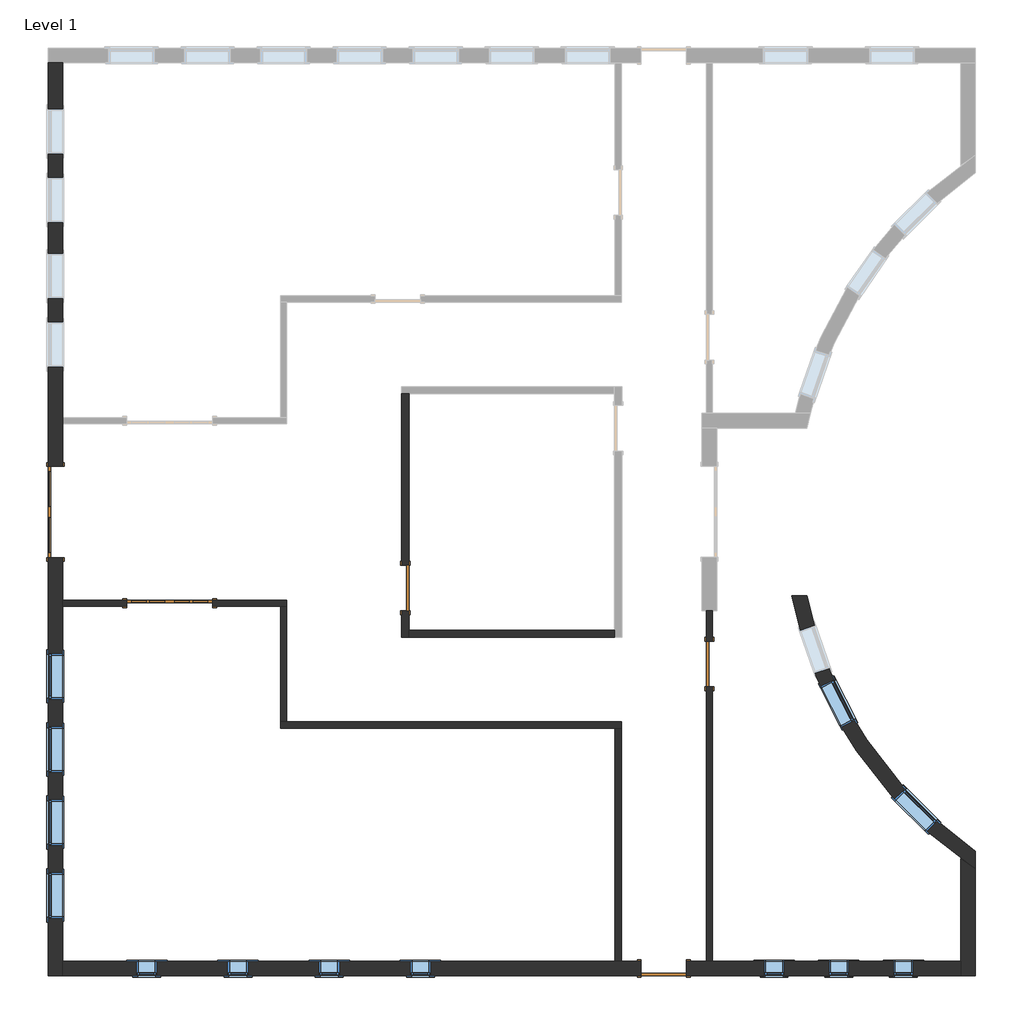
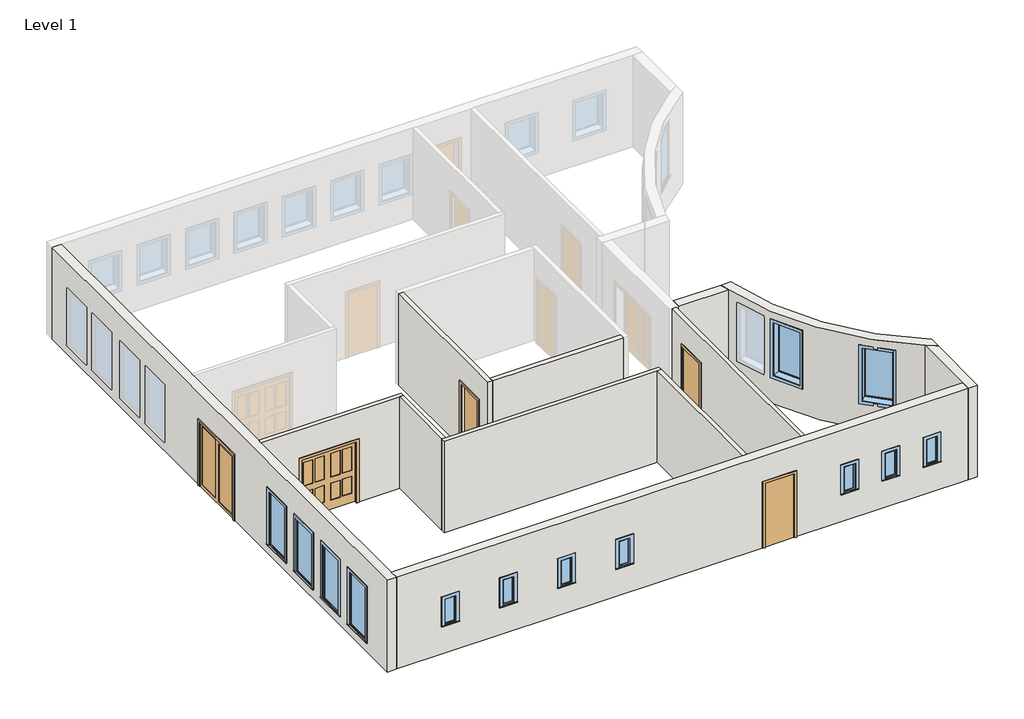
# One storey, part 1 of 2: 13 windows, 12 walls, 5 doors.
"""IFC4 building model written with IfcOpenShell, lengths in millimetres."""

from ifc_helpers import new_model, si_unit, point, frame, frame_2d, origin, origin_with_axes, place, context, project, spatial, polyline, circle_curve, trimmed, segment, composite_curve, outline, extrude, faceted_brep, transform, mapped, element, save
from ifc_brep_helpers import plane_surface, cylinder_surface, revolved_surface, advanced_brep
from components import door_e9d87526, door_c173eac2, door_7b231ec9, door_eb9f8b14, door_3dff5d0e, fixed_6768491c, fixed_431f5485

model = new_model("IFC4")

# Units and contexts
model_context = context("Model", 3, world=origin())
ifc_project = project(units=[si_unit("LENGTHUNIT", "METRE", prefix="MILLI")], contexts=[model_context])

# Site, building, storey
site = spatial("IfcSite", under=ifc_project)
building = spatial("IfcBuilding", under=site)
storey = spatial("IfcBuildingStorey", under=building, Name="Level 1", Elevation=0.0)

# Doors
placement = place(None, origin())
door_shape = door_e9d87526(model_context)
element("IfcDoor", 1, ObjectType="Double-Glass 1 : 72\" x 84\"", at=placement, inside=storey, context=model_context, shape_type="MappedRepresentation", body=[
    mapped(door_shape, transform((-10745.5063726, -435.5710073, 0.0), x_axis=(0.0, 1.0, 0.0), y_axis=(-1.0, 0.0, 0.0), z_axis=(0.0, 0.0, 1.0))),
])
door_2_shape = door_c173eac2(model_context)
element("IfcDoor", 2, ObjectType="Double-Panel 2 : 68\" x 80\"", at=placement, inside=storey, context=model_context, shape_type="MappedRepresentation", body=[
    mapped(door_2_shape, transform((-8461.8876226, -2264.3710073, 0.0), x_axis=(1.0, 0.0, 0.0), y_axis=(0.0, 1.0, 0.0), z_axis=(0.0, 0.0, 1.0))),
])
door_3_shape = door_7b231ec9(model_context)
element("IfcDoor", 3, ObjectType="Sgl Flush : 36\" x 84\"", at=placement, inside=storey, context=model_context, shape_type="MappedRepresentation", body=[
    mapped(door_3_shape, transform((1444.1123774, -9579.5710073, 0.0), x_axis=(-1.0, 0.0, 0.0), y_axis=(0.0, -1.0, 0.0), z_axis=(0.0, 0.0, 1.0))),
])
door_4_shape = door_eb9f8b14(model_context)
element("IfcDoor", 4, ObjectType="Sgl Flush : 36\" x 84\"", at=placement, inside=storey, context=model_context, shape_type="MappedRepresentation", body=[
    mapped(door_4_shape, transform((2358.5123774, -3478.8085073, 0.0), x_axis=(0.0, -1.0, 0.0), y_axis=(1.0, 0.0, 0.0), z_axis=(0.0, 0.0, 1.0))),
])
door_5_shape = door_3dff5d0e(model_context)
element("IfcDoor", 5, ObjectType="Sgl Flush : 36\" x 84\"", at=placement, inside=storey, context=model_context, shape_type="MappedRepresentation", body=[
    mapped(door_5_shape, transform((-3737.4876226, -1959.5710073, 0.0), x_axis=(0.0, -1.0, 0.0), y_axis=(1.0, 0.0, 0.0), z_axis=(0.0, 0.0, 1.0))),
])

# Walls
element("IfcWall", 6, ObjectType="Generic - 12\" Masonry", at=placement, inside=storey, context=model_context, shape_type="Brep", body=[
    faceted_brep([(-10600.2501226, 478.8289927, 2133.6), (-10600.2501226, 478.8289927, 0.0), (-10600.2501226, 1331.3164927, 0.0), (-10600.2501226, 1455.1414927, 0.0), (-10600.2501226, 8560.7914927, 0.0), (-10600.2501226, 8560.7914927, 3048.0), (-10600.2501226, 1455.1414927, 3048.0), (-10600.2501226, 1331.3164927, 3048.0), (-10600.2501226, -2202.4585073, 3048.0), (-10600.2501226, -2326.2835073, 3048.0), (-10600.2501226, -9431.9335073, 3048.0), (-10600.2501226, -9727.2085073, 3048.0), (-10600.2501226, -9727.2085073, 0.0), (-10600.2501226, -9431.9335073, 0.0), (-10600.2501226, -2326.2835073, 0.0), (-10600.2501226, -2202.4585073, 0.0), (-10600.2501226, -1349.9710073, 0.0), (-10600.2501226, -1349.9710073, 2133.6), (-10600.2501226, 6727.2289927, 2133.6), (-10600.2501226, 7641.6289927, 2133.6), (-10600.2501226, 7641.6289927, 304.8), (-10600.2501226, 6727.2289927, 304.8), (-10600.2501226, 3831.6289927, 2133.6), (-10600.2501226, 4746.0289927, 2133.6), (-10600.2501226, 4746.0289927, 304.8), (-10600.2501226, 3831.6289927, 304.8), (-10600.2501226, 5355.6289927, 2133.6), (-10600.2501226, 6270.0289927, 2133.6), (-10600.2501226, 6270.0289927, 304.8), (-10600.2501226, 5355.6289927, 304.8), (-10600.2501226, 2460.0289927, 2133.6), (-10600.2501226, 3374.4289927, 2133.6), (-10600.2501226, 3374.4289927, 304.8), (-10600.2501226, 2460.0289927, 304.8), (-10600.2501226, -7659.3310073, 2133.6), (-10600.2501226, -7659.3310073, 304.8), (-10600.2501226, -8573.7310073, 304.8), (-10600.2501226, -8573.7310073, 2133.6), (-10600.2501226, -4733.2510073, 2133.6), (-10600.2501226, -4733.2510073, 304.8), (-10600.2501226, -5647.6510073, 304.8), (-10600.2501226, -5647.6510073, 2133.6), (-10600.2501226, -6196.2910073, 2133.6), (-10600.2501226, -6196.2910073, 304.8), (-10600.2501226, -7110.6910073, 304.8), (-10600.2501226, -7110.6910073, 2133.6), (-10600.2501226, -3270.2110073, 2133.6), (-10600.2501226, -3270.2110073, 304.8), (-10600.2501226, -4184.6110073, 304.8), (-10600.2501226, -4184.6110073, 2133.6), (-10895.5251226, 8560.7914927, 0.0), (-10895.5251226, 478.8289927, 0.0), (-10895.5251226, 478.8289927, 2133.6), (-10895.5251226, -1349.9710073, 2133.6), (-10895.5251226, -1349.9710073, 0.0), (-10895.5251226, -9727.2085073, 0.0), (-10895.5251226, -9727.2085073, 3048.0), (-10895.5251226, 8560.7914927, 3048.0), (-10895.5251226, 6727.2289927, 2133.6), (-10895.5251226, 6727.2289927, 304.8), (-10895.5251226, 7641.6289927, 304.8), (-10895.5251226, 7641.6289927, 2133.6), (-10895.5251226, 3831.6289927, 2133.6), (-10895.5251226, 3831.6289927, 304.8), (-10895.5251226, 4746.0289927, 304.8), (-10895.5251226, 4746.0289927, 2133.6), (-10895.5251226, 5355.6289927, 2133.6), (-10895.5251226, 5355.6289927, 304.8), (-10895.5251226, 6270.0289927, 304.8), (-10895.5251226, 6270.0289927, 2133.6), (-10895.5251226, 2460.0289927, 2133.6), (-10895.5251226, 2460.0289927, 304.8), (-10895.5251226, 3374.4289927, 304.8), (-10895.5251226, 3374.4289927, 2133.6), (-10895.5251226, -7659.3310073, 2133.6), (-10895.5251226, -8573.7310073, 2133.6), (-10895.5251226, -8573.7310073, 304.8), (-10895.5251226, -7659.3310073, 304.8), (-10895.5251226, -4733.2510073, 2133.6), (-10895.5251226, -5647.6510073, 2133.6), (-10895.5251226, -5647.6510073, 304.8), (-10895.5251226, -4733.2510073, 304.8), (-10895.5251226, -6196.2910073, 2133.6), (-10895.5251226, -7110.6910073, 2133.6), (-10895.5251226, -7110.6910073, 304.8), (-10895.5251226, -6196.2910073, 304.8), (-10895.5251226, -3270.2110073, 2133.6), (-10895.5251226, -4184.6110073, 2133.6), (-10895.5251226, -4184.6110073, 304.8), (-10895.5251226, -3270.2110073, 304.8)], [[[0, 1, 2, 3, 4, 5, 6, 7, 8, 9, 10, 11, 12, 13, 14, 15, 16, 17], [18, 19, 20, 21], [22, 23, 24, 25], [26, 27, 28, 29], [30, 31, 32, 33], [34, 35, 36, 37], [38, 39, 40, 41], [42, 43, 44, 45], [46, 47, 48, 49]], [[50, 51, 52, 53, 54, 55, 56, 57], [58, 59, 60, 61], [62, 63, 64, 65], [66, 67, 68, 69], [70, 71, 72, 73], [74, 75, 76, 77], [78, 79, 80, 81], [82, 83, 84, 85], [86, 87, 88, 89]], [[4, 3, 2, 1, 51, 50]], [[16, 15, 14, 13, 12, 55, 54]], [[11, 10, 9, 8, 7, 6, 5, 57, 56]], [[12, 11, 56, 55]], [[5, 4, 50, 57]], [[52, 51, 1, 0]], [[53, 52, 0, 17]], [[54, 53, 17, 16]], [[59, 58, 18, 21]], [[60, 59, 21, 20]], [[61, 60, 20, 19]], [[58, 61, 19, 18]], [[63, 62, 22, 25]], [[64, 63, 25, 24]], [[65, 64, 24, 23]], [[62, 65, 23, 22]], [[67, 66, 26, 29]], [[68, 67, 29, 28]], [[69, 68, 28, 27]], [[66, 69, 27, 26]], [[71, 70, 30, 33]], [[72, 71, 33, 32]], [[73, 72, 32, 31]], [[70, 73, 31, 30]], [[35, 34, 74, 77]], [[36, 35, 77, 76]], [[37, 36, 76, 75]], [[34, 37, 75, 74]], [[39, 38, 78, 81]], [[40, 39, 81, 80]], [[41, 40, 80, 79]], [[38, 41, 79, 78]], [[43, 42, 82, 85]], [[44, 43, 85, 84]], [[45, 44, 84, 83]], [[42, 45, 83, 82]], [[47, 46, 86, 89]], [[48, 47, 89, 88]], [[49, 48, 88, 87]], [[46, 49, 87, 86]]]),
])
element("IfcWall", 7, ObjectType="Generic - 12\" Masonry", at=placement, inside=storey, context=model_context, shape_type="Brep", body=[
    faceted_brep([(986.9123774, -9431.9335073, 2133.6), (986.9123774, -9431.9335073, 0.0), (591.6248774, -9431.9335073, 0.0), (467.7998774, -9431.9335073, 0.0), (-10600.2501226, -9431.9335073, 0.0), (-10600.2501226, -9431.9335073, 3048.0), (467.7998774, -9431.9335073, 3048.0), (591.6248774, -9431.9335073, 3048.0), (2296.5998774, -9431.9335073, 3048.0), (2420.4248774, -9431.9335073, 3048.0), (7392.4748774, -9431.9335073, 3048.0), (7392.4748774, -9431.9335073, 0.0), (2420.4248774, -9431.9335073, 0.0), (2296.5998774, -9431.9335073, 0.0), (1901.3123774, -9431.9335073, 0.0), (1901.3123774, -9431.9335073, 2133.6), (6041.5123774, -9431.9335073, 1828.8), (6041.5123774, -9431.9335073, 914.4), (6447.9123774, -9431.9335073, 914.4), (6447.9123774, -9431.9335073, 1828.8), (4746.1123774, -9431.9335073, 1828.8), (4746.1123774, -9431.9335073, 914.4), (5152.5123774, -9431.9335073, 914.4), (5152.5123774, -9431.9335073, 1828.8), (3450.7123774, -9431.9335073, 1828.8), (3450.7123774, -9431.9335073, 914.4), (3857.1123774, -9431.9335073, 914.4), (3857.1123774, -9431.9335073, 1828.8), (-3635.8876226, -9431.9335073, 1828.8), (-3635.8876226, -9431.9335073, 914.4), (-3229.4876226, -9431.9335073, 914.4), (-3229.4876226, -9431.9335073, 1828.8), (-5464.6876226, -9431.9335073, 1828.8), (-5464.6876226, -9431.9335073, 914.4), (-5058.2876226, -9431.9335073, 914.4), (-5058.2876226, -9431.9335073, 1828.8), (-7293.4876226, -9431.9335073, 1828.8), (-7293.4876226, -9431.9335073, 914.4), (-6887.0876226, -9431.9335073, 914.4), (-6887.0876226, -9431.9335073, 1828.8), (-9122.2876226, -9431.9335073, 1828.8), (-9122.2876226, -9431.9335073, 914.4), (-8715.8876226, -9431.9335073, 914.4), (-8715.8876226, -9431.9335073, 1828.8), (-10600.2501226, -9727.2085073, 0.0), (986.9123774, -9727.2085073, 0.0), (986.9123774, -9727.2085073, 2133.6), (1901.3123774, -9727.2085073, 2133.6), (1901.3123774, -9727.2085073, 0.0), (7392.4748774, -9727.2085073, 0.0), (7392.4748774, -9727.2085073, 3048.0), (-10600.2501226, -9727.2085073, 3048.0), (6041.5123774, -9727.2085073, 1828.8), (6447.9123774, -9727.2085073, 1828.8), (6447.9123774, -9727.2085073, 914.4), (6041.5123774, -9727.2085073, 914.4), (4746.1123774, -9727.2085073, 1828.8), (5152.5123774, -9727.2085073, 1828.8), (5152.5123774, -9727.2085073, 914.4), (4746.1123774, -9727.2085073, 914.4), (3450.7123774, -9727.2085073, 1828.8), (3857.1123774, -9727.2085073, 1828.8), (3857.1123774, -9727.2085073, 914.4), (3450.7123774, -9727.2085073, 914.4), (-3635.8876226, -9727.2085073, 1828.8), (-3229.4876226, -9727.2085073, 1828.8), (-3229.4876226, -9727.2085073, 914.4), (-3635.8876226, -9727.2085073, 914.4), (-5464.6876226, -9727.2085073, 1828.8), (-5058.2876226, -9727.2085073, 1828.8), (-5058.2876226, -9727.2085073, 914.4), (-5464.6876226, -9727.2085073, 914.4), (-7293.4876226, -9727.2085073, 1828.8), (-6887.0876226, -9727.2085073, 1828.8), (-6887.0876226, -9727.2085073, 914.4), (-7293.4876226, -9727.2085073, 914.4), (-9122.2876226, -9727.2085073, 1828.8), (-8715.8876226, -9727.2085073, 1828.8), (-8715.8876226, -9727.2085073, 914.4), (-9122.2876226, -9727.2085073, 914.4)], [[[0, 1, 2, 3, 4, 5, 6, 7, 8, 9, 10, 11, 12, 13, 14, 15], [16, 17, 18, 19], [20, 21, 22, 23], [24, 25, 26, 27], [28, 29, 30, 31], [32, 33, 34, 35], [36, 37, 38, 39], [40, 41, 42, 43]], [[44, 45, 46, 47, 48, 49, 50, 51], [52, 53, 54, 55], [56, 57, 58, 59], [60, 61, 62, 63], [64, 65, 66, 67], [68, 69, 70, 71], [72, 73, 74, 75], [76, 77, 78, 79]], [[4, 3, 2, 1, 45, 44]], [[14, 13, 12, 11, 49, 48]], [[10, 9, 8, 7, 6, 5, 51, 50]], [[5, 4, 44, 51]], [[11, 10, 50, 49]], [[46, 45, 1, 0]], [[47, 46, 0, 15]], [[48, 47, 15, 14]], [[17, 16, 52, 55]], [[18, 17, 55, 54]], [[19, 18, 54, 53]], [[16, 19, 53, 52]], [[21, 20, 56, 59]], [[22, 21, 59, 58]], [[23, 22, 58, 57]], [[20, 23, 57, 56]], [[25, 24, 60, 63]], [[26, 25, 63, 62]], [[27, 26, 62, 61]], [[24, 27, 61, 60]], [[29, 28, 64, 67]], [[30, 29, 67, 66]], [[31, 30, 66, 65]], [[28, 31, 65, 64]], [[33, 32, 68, 71]], [[34, 33, 71, 70]], [[35, 34, 70, 69]], [[32, 35, 69, 68]], [[37, 36, 72, 75]], [[38, 37, 75, 74]], [[39, 38, 74, 73]], [[36, 39, 73, 72]], [[41, 40, 76, 79]], [[42, 41, 79, 78]], [[43, 42, 78, 77]], [[40, 43, 77, 76]]]),
])
element("IfcWall", 8, ObjectType="Generic - 12\" Masonry", at=placement, inside=storey, context=model_context, shape_type="AdvancedBrep", body=[
    advanced_brep(
    [(7392.4748774, -7378.5850292, 0.0), (7392.4748774, -9431.9335073, 0.0), (7392.4748774, -9727.2085073, 0.0), (7392.4748774, -9727.2085073, 3048.0), (7392.4748774, -9431.9335073, 3048.0), (7392.4748774, -7378.5850292, 3048.0), (7687.7498774, -7582.8871074, 0.0), (7687.7498774, -7582.8871074, 3048.0), (7687.7498774, -9727.2085073, 3048.0), (7687.7498774, -9727.2085073, 0.0)],
    [
        (0, 1),
        (1, 2),
        (2, 3),
        (3, 4),
        (4, 5),
        (5, 0),
        (6, 7),
        (7, 8),
        (8, 9),
        (9, 6),
        (0, 6, circle_curve(frame((12414.6932373, -435.5710073, 0.0), z_axis=(0.0, 0.0, 1.0), x_axis=(1.0, 0.0, 0.0)), 8569.0210037)),
        (9, 2),
        (3, 8),
        (7, 5, circle_curve(frame((12414.6932373, -435.5710073, 3048.0), z_axis=(0.0, 0.0, -1.0), x_axis=(1.0, 0.0, 0.0)), 8569.0210037)),
    ],
    [
        plane_surface(frame((7392.4748774, 8846.8596294, 0.0), z_axis=(-1.0, 0.0, 0.0), x_axis=(0.0, -1.0, 0.0))),
        plane_surface(frame((7687.7498774, 8846.8596294, 0.0), z_axis=(1.0, 0.0, 0.0), x_axis=(0.0, 1.0, 0.0))),
        plane_surface(frame((7392.4748774, -7302.7510368, 0.0), z_axis=(0.0, 0.0, -1.0), x_axis=(1.0, 0.0, 0.0))),
        plane_surface(frame((7392.4748774, -9579.5710073, 3048.0), z_axis=(0.0, 0.0, 1.0), x_axis=(1.0, 0.0, 0.0))),
        plane_surface(frame((7540.1123774, -9727.2085073, 0.0), z_axis=(0.0, -1.0, 0.0), x_axis=(1.0, 0.0, 0.0))),
        revolved_surface(polyline([(20983.714241, -435.5710073, 3048.0), (20983.714241, -435.5710073, 0.0)]), (12414.6932373, -435.5710073, 0.0), (0.0, 0.0, 1.0)),
    ],
    [
        (0, [[1, 2, 3, 4, 5, 6]]),
        (1, [[7, 8, 9, 10]]),
        (2, [[-2, -1, 11, -10, 12]]),
        (3, [[-5, -4, 13, -8, 14]]),
        (4, [[-3, -12, -9, -13]]),
        (5, [[-6, -14, -7, -11]]),
    ],
),
])
element("IfcWall", 9, ObjectType="Generic - 12\" Masonry", at=placement, inside=storey, context=model_context, shape_type="AdvancedBrep", body=[
    advanced_brep(
    [(7687.7498774, -7226.0702089, 3048.0), (4313.5472948, -2116.7335073, 3048.0), (4012.2047005, -2116.7335073, 3048.0), (4076.7199892, -2412.0129973, 3048.0), (7392.4783745, -7378.5874332, 3048.0), (7687.7498774, -7582.8871074, 3048.0), (7687.7498774, -7226.0702089, 0.0), (7687.7498774, -7582.8871074, 0.0), (7392.4783745, -7378.5874332, 0.0), (4076.7199892, -2412.0129973, 0.0), (4012.2047005, -2116.7335073, 0.0), (4313.5472948, -2116.7335073, 0.0), (6922.7409562, -6623.7317256, 2743.2), (6273.4213207, -5979.9061506, 2743.2), (6273.4213207, -5979.9061506, 914.4), (6922.7409562, -6623.7317256, 914.4), (5269.4263488, -4606.9058088, 2743.2), (4852.7592551, -3792.9550161, 2743.2), (4852.7592551, -3792.9550161, 914.4), (5269.4263488, -4606.9058088, 914.4), (4758.4259955, -3571.8817152, 2743.2), (4459.0939332, -2707.8633842, 2743.2), (4459.0939332, -2707.8633842, 914.4), (4758.4259955, -3571.8817152, 914.4), (6714.5317839, -6833.7176427, 2743.2), (6714.5317839, -6833.7176427, 914.4), (6065.2121485, -6189.8920676, 914.4), (6065.2121485, -6189.8920676, 2743.2), (5006.1997431, -4741.6533461, 2743.2), (5006.1997431, -4741.6533461, 914.4), (4589.5326494, -3927.7025534, 914.4), (4589.5326494, -3927.7025534, 2743.2), (4479.0078605, -3668.6838358, 2743.2), (4479.0078605, -3668.6838358, 914.4), (4179.6757981, -2804.6655047, 914.4), (4179.6757981, -2804.6655047, 2743.2)],
    [
        (0, 1, circle_curve(frame((12414.6932373, -435.5710073, 3048.0), z_axis=(0.0, 0.0, -1.0), x_axis=(1.0, 0.0, 0.0)), 8273.7460037)),
        (1, 2),
        (2, 3, circle_curve(frame((12414.6932373, -435.5710073, 3048.0), z_axis=(0.0, 0.0, 1.0), x_axis=(1.0, 0.0, 0.0)), 8569.0210037)),
        (3, 4, circle_curve(frame((12414.6932373, -435.5710073, 3048.0), z_axis=(0.0, 0.0, 1.0), x_axis=(1.0, 0.0, 0.0)), 8569.0209957)),
        (4, 5, circle_curve(frame((12414.6932373, -435.5710073, 3048.0), z_axis=(0.0, 0.0, 1.0), x_axis=(1.0, 0.0, 0.0)), 8569.0209019)),
        (5, 0),
        (6, 7),
        (7, 8, circle_curve(frame((12414.6932373, -435.5710073, 0.0), z_axis=(0.0, 0.0, -1.0), x_axis=(1.0, 0.0, 0.0)), 8569.0210037)),
        (8, 9, circle_curve(frame((12414.6932373, -435.5710073, 0.0), z_axis=(0.0, 0.0, -1.0), x_axis=(1.0, 0.0, 0.0)), 8569.0209019)),
        (9, 10, circle_curve(frame((12414.6932373, -435.5710073, 0.0), z_axis=(0.0, 0.0, -1.0), x_axis=(1.0, 0.0, 0.0)), 8569.0209957)),
        (10, 11),
        (11, 6, circle_curve(frame((12414.6932373, -435.5710073, 0.0), z_axis=(0.0, 0.0, 1.0), x_axis=(1.0, 0.0, 0.0)), 8273.7460037)),
        (0, 6),
        (11, 1),
        (12, 13, circle_curve(frame((12414.6932373, -435.5710073, 2743.2), z_axis=(0.0, 0.0, -1.0), x_axis=(1.0, 0.0, 0.0)), 8273.7460037)),
        (13, 14),
        (14, 15, circle_curve(frame((12414.6932373, -435.5710073, 914.4), z_axis=(0.0, 0.0, 1.0), x_axis=(1.0, 0.0, 0.0)), 8273.7460037)),
        (15, 12),
        (16, 17, circle_curve(frame((12414.6932373, -435.5710073, 2743.2), z_axis=(0.0, 0.0, -1.0), x_axis=(1.0, 0.0, 0.0)), 8273.7460037)),
        (17, 18),
        (18, 19, circle_curve(frame((12414.6932373, -435.5710073, 914.4), z_axis=(0.0, 0.0, 1.0), x_axis=(1.0, 0.0, 0.0)), 8273.7460037)),
        (19, 16),
        (20, 21, circle_curve(frame((12414.6932373, -435.5710073, 2743.2), z_axis=(0.0, 0.0, -1.0), x_axis=(1.0, 0.0, 0.0)), 8273.7460037)),
        (21, 22),
        (22, 23, circle_curve(frame((12414.6932373, -435.5710073, 914.4), z_axis=(0.0, 0.0, 1.0), x_axis=(1.0, 0.0, 0.0)), 8273.7460037)),
        (23, 20),
        (2, 10),
        (7, 5),
        (24, 25),
        (25, 26, circle_curve(frame((12414.6932373, -435.5710073, 914.4), z_axis=(0.0, 0.0, -1.0), x_axis=(1.0, 0.0, 0.0)), 8569.0210037)),
        (26, 27),
        (27, 24, circle_curve(frame((12414.6932373, -435.5710073, 2743.2), z_axis=(0.0, 0.0, 1.0), x_axis=(1.0, 0.0, 0.0)), 8569.0210037)),
        (28, 29),
        (29, 30, circle_curve(frame((12414.6932373, -435.5710073, 914.4), z_axis=(0.0, 0.0, -1.0), x_axis=(1.0, 0.0, 0.0)), 8569.0210037)),
        (30, 31),
        (31, 28, circle_curve(frame((12414.6932373, -435.5710073, 2743.2), z_axis=(0.0, 0.0, 1.0), x_axis=(1.0, 0.0, 0.0)), 8569.0210037)),
        (32, 33),
        (33, 34, circle_curve(frame((12414.6932373, -435.5710073, 914.4), z_axis=(0.0, 0.0, -1.0), x_axis=(1.0, 0.0, 0.0)), 8569.0210037)),
        (34, 35),
        (35, 32, circle_curve(frame((12414.6932373, -435.5710073, 2743.2), z_axis=(0.0, 0.0, 1.0), x_axis=(1.0, 0.0, 0.0)), 8569.0210037)),
        (24, 12),
        (15, 25),
        (14, 26),
        (13, 27),
        (28, 16),
        (19, 29),
        (18, 30),
        (17, 31),
        (32, 20),
        (23, 33),
        (22, 34),
        (21, 35),
    ],
    [
        plane_surface(frame((20688.4392409, -435.5710073, 3048.0), z_axis=(0.0, 0.0, 1.0), x_axis=(0.0, -1.0, 0.0))),
        plane_surface(frame((20688.4392409, -435.5710073, 0.0), z_axis=(0.0, 0.0, -1.0), x_axis=(0.0, 1.0, 0.0))),
        revolved_surface(polyline([(20688.439241, -435.5710073, 0.0), (20688.439241, -435.5710073, 3048.0)]), (12414.6932373, -435.5710073, 0.0), (0.0, 0.0, -1.0)),
        cylinder_surface(frame((12414.6932373, -435.5710073, 0.0), z_axis=(0.0, 0.0, 1.0), x_axis=(1.0, 0.0, 0.0)), 8569.0210037),
        plane_surface(frame((7687.7498774, 8846.8596294, 0.0), z_axis=(1.0, 0.0, 0.0), x_axis=(0.0, 1.0, 0.0))),
        plane_surface(frame((3577.7123774, -2116.7335073, 0.0), z_axis=(0.0, 1.0, 0.0), x_axis=(-1.0, 0.0, 0.0))),
        plane_surface(frame((6714.5317839, -6833.7176427, 2743.2), z_axis=(-0.7101045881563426, 0.7040962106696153, 0.0), x_axis=(0.7040962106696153, 0.7101045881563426, 0.0))),
        plane_surface(frame((6714.5317839, -6833.7176427, 914.4), z_axis=(0.0, 0.0, 1.0000000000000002), x_axis=(0.7040962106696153, 0.7101045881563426, 0.0))),
        plane_surface(frame((6065.2121485, -6189.8920676, 914.4), z_axis=(0.7101045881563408, -0.7040962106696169, 0.0), x_axis=(0.7040962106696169, 0.7101045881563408, 0.0))),
        plane_surface(frame((6065.2121485, -6189.8920676, 2743.2), z_axis=(0.0, 0.0, -1.0), x_axis=(0.7040962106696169, 0.7101045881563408, 0.0))),
        plane_surface(frame((5006.1997431, -4741.6533461, 2743.2), z_axis=(-0.45567267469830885, 0.8901474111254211, 0.0), x_axis=(0.8901474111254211, 0.45567267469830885, 0.0))),
        plane_surface(frame((5006.1997431, -4741.6533461, 914.4), z_axis=(0.0, 0.0, 1.0000000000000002), x_axis=(0.8901474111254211, 0.45567267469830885, 0.0))),
        plane_surface(frame((4589.5326494, -3927.7025534, 914.4), z_axis=(0.45567267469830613, -0.8901474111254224, 0.0), x_axis=(0.8901474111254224, 0.45567267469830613, 0.0))),
        plane_surface(frame((4589.5326494, -3927.7025534, 2743.2), z_axis=(0.0, 0.0, -1.0), x_axis=(0.8901474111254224, 0.45567267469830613, 0.0))),
        plane_surface(frame((4479.0078605, -3668.6838358, 2743.2), z_axis=(-0.3273535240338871, 0.9449019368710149, 0.0), x_axis=(0.9449019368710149, 0.3273535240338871, 0.0))),
        plane_surface(frame((4479.0078605, -3668.6838358, 914.4), z_axis=(0.0, 0.0, 1.0), x_axis=(0.9449019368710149, 0.3273535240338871, 0.0))),
        plane_surface(frame((4179.6757981, -2804.6655047, 914.4), z_axis=(0.327353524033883, -0.9449019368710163, 0.0), x_axis=(0.9449019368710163, 0.327353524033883, 0.0))),
        plane_surface(frame((4179.6757981, -2804.6655047, 2743.2), z_axis=(0.0, 0.0, -1.0000000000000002), x_axis=(0.9449019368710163, 0.327353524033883, 0.0))),
    ],
    [
        (0, [[1, 2, 3, 4, 5, 6]]),
        (1, [[7, 8, 9, 10, 11, 12]]),
        (2, [[-1, 13, -12, 14], [15, 16, 17, 18], [19, 20, 21, 22], [23, 24, 25, 26]]),
        (3, [[-5, -4, -3, 27, -10, -9, -8, 28], [29, 30, 31, 32], [33, 34, 35, 36], [37, 38, 39, 40]]),
        (4, [[-6, -28, -7, -13]]),
        (5, [[-2, -14, -11, -27]]),
        (6, [[-29, 41, -18, 42]]),
        (7, [[-30, -42, -17, 43]]),
        (8, [[-31, -43, -16, 44]]),
        (9, [[-32, -44, -15, -41]]),
        (10, [[-33, 45, -22, 46]]),
        (11, [[-34, -46, -21, 47]]),
        (12, [[-35, -47, -20, 48]]),
        (13, [[-36, -48, -19, -45]]),
        (14, [[-37, 49, -26, 50]]),
        (15, [[-38, -50, -25, 51]]),
        (16, [[-39, -51, -24, 52]]),
        (17, [[-40, -52, -23, -49]]),
    ],
),
])
element("IfcWall", 10, ObjectType="Generic - 12\" Masonry", at=placement, inside=storey, context=model_context, shape_type="SweptSolid", body=[
    extrude(outline(composite_curve([segment(polyline([(4076.7189167, -2412.0085073), (2506.1498774, -2412.0085073), (2506.1498774, -2116.7335073), (4012.2047005, -2116.7335073)]), True, "CONTINUOUS"), segment(trimmed(circle_curve(frame_2d((12414.6932373, -435.5710073)), 8569.0210037), [point((4012.2047005, -2116.7335073))], [point((4076.7189167, -2412.0085073))], True, "CARTESIAN"), True, "CONTINUOUS")], self_intersect=False)), origin_with_axes(), (0.0, 0.0, 1.0), 3048.0),
])
element("IfcWall", 11, ObjectType="Generic - 6\" Masonry", at=placement, inside=storey, context=model_context, shape_type="Brep", body=[
    faceted_brep([(-3666.0501226, -2945.4085073, 0.0), (-3666.0501226, -2802.5335073, 0.0), (-3666.0501226, -2416.7710073, 0.0), (-3666.0501226, -2416.7710073, 2133.6), (-3666.0501226, -1502.3710073, 2133.6), (-3666.0501226, -1502.3710073, 0.0), (-3666.0501226, 1931.3914927, 0.0), (-3666.0501226, 1931.3914927, 3048.0), (-3666.0501226, -2802.5335073, 3048.0), (-3666.0501226, -2945.4085073, 3048.0), (-3808.9251226, -2416.7710073, 2133.6), (-3808.9251226, -2416.7710073, 0.0), (-3808.9251226, -2945.4085073, 0.0), (-3808.9251226, -2945.4085073, 3048.0), (-3808.9251226, 1931.3914927, 3048.0), (-3808.9251226, 1931.3914927, 0.0), (-3808.9251226, -1502.3710073, 0.0), (-3808.9251226, -1502.3710073, 2133.6)], [[[0, 1, 2, 3, 4, 5, 6, 7, 8, 9]], [[10, 11, 12, 13, 14, 15, 16, 17]], [[12, 11, 2, 1, 0]], [[16, 15, 6, 5]], [[9, 8, 7, 14, 13]], [[0, 9, 13, 12]], [[7, 6, 15, 14]], [[3, 2, 11, 10]], [[4, 3, 10, 17]], [[5, 4, 17, 16]]]),
])
element("IfcWall", 12, ObjectType="Generic - 6\" Masonry", at=placement, inside=storey, context=model_context, shape_type="SweptSolid", body=[
    extrude(outline(polyline([(-3666.0501226, -2802.5335073), (458.2748774, -2802.5335073), (458.2748774, -2945.4085073), (-3666.0501226, -2945.4085073), (-3666.0501226, -2802.5335073)])), origin_with_axes(), (0.0, 0.0, 1.0), 3048.0),
])
element("IfcWall", 13, ObjectType="Interior - 4 7/8\" Partition (1-hr)", at=placement, inside=storey, context=model_context, shape_type="Brep", body=[
    faceted_brep([(-10600.2501226, -2326.2835073, 3048.0), (-6237.8001226, -2326.2835073, 3048.0), (-6113.9751226, -2326.2835073, 3048.0), (-6113.9751226, -2202.4585073, 3048.0), (-10600.2501226, -2202.4585073, 3048.0), (-10600.2501226, -2326.2835073, 0.0), (-9325.4876226, -2326.2835073, 0.0), (-9325.4876226, -2326.2835073, 2032.0), (-7598.2876226, -2326.2835073, 2032.0), (-7598.2876226, -2326.2835073, 0.0), (-6237.8001226, -2326.2835073, 0.0), (-6113.9751226, -2326.2835073, 0.0), (-6113.9751226, -2202.4585073, 0.0), (-7598.2876226, -2202.4585073, 0.0), (-7598.2876226, -2202.4585073, 2032.0), (-9325.4876226, -2202.4585073, 2032.0), (-9325.4876226, -2202.4585073, 0.0), (-10600.2501226, -2202.4585073, 0.0)], [[[0, 1, 2, 3, 4]], [[2, 1, 0, 5, 6, 7, 8, 9, 10, 11]], [[4, 3, 12, 13, 14, 15, 16, 17]], [[12, 11, 10, 9, 13]], [[5, 17, 16, 6]], [[2, 11, 12, 3]], [[5, 0, 4, 17]], [[8, 14, 13, 9]], [[14, 8, 7, 15]], [[15, 7, 6, 16]]]),
])
element("IfcWall", 14, ObjectType="Interior - 4 7/8\" Partition (1-hr)", at=placement, inside=storey, context=model_context, shape_type="Brep", body=[
    faceted_brep([(-6237.8001226, -4764.6835073, 0.0), (467.7998774, -4764.6835073, 0.0), (591.6248774, -4764.6835073, 0.0), (591.6248774, -4764.6835073, 3048.0), (467.7998774, -4764.6835073, 3048.0), (-6237.8001226, -4764.6835073, 3048.0), (-6237.8001226, -4640.8585073, 0.0), (-6237.8001226, -4640.8585073, 3048.0), (-6113.9751226, -4640.8585073, 3048.0), (591.6248774, -4640.8585073, 3048.0), (591.6248774, -4640.8585073, 0.0), (-6113.9751226, -4640.8585073, 0.0)], [[[0, 1, 2, 3, 4, 5]], [[6, 7, 8, 9, 10, 11]], [[2, 1, 0, 6, 11, 10]], [[5, 4, 3, 9, 8, 7]], [[3, 2, 10, 9]], [[0, 5, 7, 6]]]),
])
element("IfcWall", 15, ObjectType="Interior - 4 7/8\" Partition (1-hr)", at=placement, inside=storey, context=model_context, shape_type="SweptSolid", body=[
    extrude(outline(polyline([(467.7998774, -9431.9335073), (467.7998774, -4764.6835073), (591.6248774, -4764.6835073), (591.6248774, -9431.9335073), (467.7998774, -9431.9335073)])), origin_with_axes(), (0.0, 0.0, 1.0), 3048.0),
])
element("IfcWall", 16, ObjectType="Interior - 4 7/8\" Partition (1-hr)", at=placement, inside=storey, context=model_context, shape_type="SweptSolid", body=[
    extrude(outline(polyline([(-6113.9751226, -2326.2835073), (-6113.9751226, -4640.8585073), (-6237.8001226, -4640.8585073), (-6237.8001226, -2326.2835073), (-6113.9751226, -2326.2835073)])), origin_with_axes(), (0.0, 0.0, 1.0), 3048.0),
])
element("IfcWall", 17, ObjectType="Interior - 4 7/8\" Partition (1-hr)", at=placement, inside=storey, context=model_context, shape_type="SweptSolid", body=[
    extrude(outline(polyline([(-3936.0085073, 2133.6), (-3936.0085073, 0.0), (-9431.9335073, 0.0), (-9431.9335073, 3048.0), (-2412.0085073, 3048.0), (-2412.0085073, 0.0), (-3021.6085073, 0.0), (-3021.6085073, 2133.6), (-3936.0085073, 2133.6)])), frame((2296.5998774, 0.0, 0.0), z_axis=(1.0, 0.0, 0.0), x_axis=(0.0, 1.0, 0.0)), (0.0, 0.0, 1.0), 123.825),
])

# Windows
fixed_shape = fixed_6768491c(model_context)
element("IfcWindow", 18, ObjectType="Fixed : 36\"w x 72\"h", at=placement, inside=storey, context=model_context, shape_type="MappedRepresentation", body=[
    mapped(fixed_shape, transform((-10747.8876226, -3689.3110073, 0.0), x_axis=(0.0, 1.0, 0.0), y_axis=(-1.0, 0.0, 0.0), z_axis=(0.0, 0.0, 1.0))),
])
element("IfcWindow", 19, ObjectType="Fixed : 36\"w x 72\"h", at=placement, inside=storey, context=model_context, shape_type="MappedRepresentation", body=[
    mapped(fixed_shape, transform((-10747.8876226, -6615.3910073, 0.0), x_axis=(0.0, 1.0, 0.0), y_axis=(-1.0, 0.0, 0.0), z_axis=(0.0, 0.0, 1.0))),
])
element("IfcWindow", 20, ObjectType="Fixed : 36\"w x 72\"h", at=placement, inside=storey, context=model_context, shape_type="MappedRepresentation", body=[
    mapped(fixed_shape, transform((-10747.8876226, -5152.3510073, 0.0), x_axis=(0.0, 1.0, 0.0), y_axis=(-1.0, 0.0, 0.0), z_axis=(0.0, 0.0, 1.0))),
])
element("IfcWindow", 21, ObjectType="Fixed : 36\"w x 72\"h", at=placement, inside=storey, context=model_context, shape_type="MappedRepresentation", body=[
    mapped(fixed_shape, transform((-10747.8876226, -8078.4310073, 0.0), x_axis=(0.0, 1.0, 0.0), y_axis=(-1.0, 0.0, 0.0), z_axis=(0.0, 0.0, 1.0))),
])
element("IfcWindow", 22, ObjectType="Fixed : 36\"w x 72\"h", at=placement, inside=storey, context=model_context, shape_type="MappedRepresentation", body=[
    mapped(fixed_shape, transform((4947.0347925, -4301.1194033, 609.6), x_axis=(0.4556726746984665, -0.8901474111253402, 0.0), y_axis=(0.8901474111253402, 0.4556726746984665, 0.0), z_axis=(0.0, 0.0, 1.0))),
])
element("IfcWindow", 23, ObjectType="Fixed : 36\"w x 72\"h", at=placement, inside=storey, context=model_context, shape_type="MappedRepresentation", body=[
    mapped(fixed_shape, transform((6521.185119, -6433.4830698, 609.6), x_axis=(0.7101045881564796, -0.7040962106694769, 0.0), y_axis=(0.7040962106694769, 0.7101045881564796, 0.0), z_axis=(0.0, 0.0, 1.0))),
])
fixed_2_shape = fixed_431f5485(model_context)
element("IfcWindow", 24, ObjectType="Fixed : 16\"w x 24\"h", at=placement, inside=storey, context=model_context, shape_type="MappedRepresentation", body=[
    mapped(fixed_2_shape, transform((-8957.1876226, -9579.5710073, 0.0), x_axis=(-1.0, 0.0, 0.0), y_axis=(0.0, -1.0, 0.0), z_axis=(0.0, 0.0, 1.0))),
])
element("IfcWindow", 25, ObjectType="Fixed : 16\"w x 24\"h", at=placement, inside=storey, context=model_context, shape_type="MappedRepresentation", body=[
    mapped(fixed_2_shape, transform((-7128.3876226, -9579.5710073, 0.0), x_axis=(-1.0, 0.0, 0.0), y_axis=(0.0, -1.0, 0.0), z_axis=(0.0, 0.0, 1.0))),
])
element("IfcWindow", 26, ObjectType="Fixed : 16\"w x 24\"h", at=placement, inside=storey, context=model_context, shape_type="MappedRepresentation", body=[
    mapped(fixed_2_shape, transform((-5299.5876226, -9579.5710073, 0.0), x_axis=(-1.0, 0.0, 0.0), y_axis=(0.0, -1.0, 0.0), z_axis=(0.0, 0.0, 1.0))),
])
element("IfcWindow", 27, ObjectType="Fixed : 16\"w x 24\"h", at=placement, inside=storey, context=model_context, shape_type="MappedRepresentation", body=[
    mapped(fixed_2_shape, transform((-3470.7876226, -9579.5710073, 0.0), x_axis=(-1.0, 0.0, 0.0), y_axis=(0.0, -1.0, 0.0), z_axis=(0.0, 0.0, 1.0))),
])
element("IfcWindow", 28, ObjectType="Fixed : 16\"w x 24\"h", at=placement, inside=storey, context=model_context, shape_type="MappedRepresentation", body=[
    mapped(fixed_2_shape, transform((3615.8123774, -9579.5710073, 0.0), x_axis=(-1.0, 0.0, 0.0), y_axis=(0.0, -1.0, 0.0), z_axis=(0.0, 0.0, 1.0))),
])
element("IfcWindow", 29, ObjectType="Fixed : 16\"w x 24\"h", at=placement, inside=storey, context=model_context, shape_type="MappedRepresentation", body=[
    mapped(fixed_2_shape, transform((4911.2123774, -9579.5710073, 0.0), x_axis=(-1.0, 0.0, 0.0), y_axis=(0.0, -1.0, 0.0), z_axis=(0.0, 0.0, 1.0))),
])
element("IfcWindow", 30, ObjectType="Fixed : 16\"w x 24\"h", at=placement, inside=storey, context=model_context, shape_type="MappedRepresentation", body=[
    mapped(fixed_2_shape, transform((6206.6123774, -9579.5710073, 0.0), x_axis=(-1.0, 0.0, 0.0), y_axis=(0.0, -1.0, 0.0), z_axis=(0.0, 0.0, 1.0))),
])

save(model, "model.ifc")
